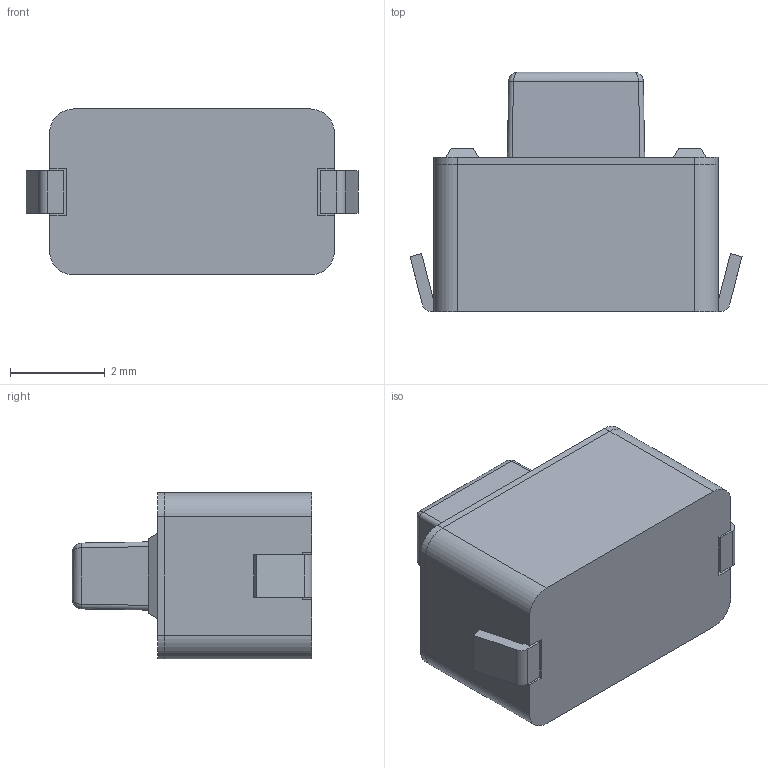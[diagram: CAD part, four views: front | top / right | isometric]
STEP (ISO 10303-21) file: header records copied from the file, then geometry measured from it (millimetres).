
FILE_DESCRIPTION((''),'2;1');
FILE_NAME('JQA3560Z-B0503-G-1-101_ASM','2026-05-22T10:42:59',('Admin'),(''),'CREO PARAMETRIC BY PTC INC, 2019224','CREO PARAMETRIC BY PTC INC, 2019224','');
FILE_SCHEMA(('AUTOMOTIVE_DESIGN { 1 0 10303 214 1 1 1 1 }'));
Length unit declared in the file: millimetre
Products named in the file (3): JQA3560Z-B0503-G-1-101_02; JQA3560Z-B0503-G-1-101_06; JQA3560Z-B0503-G-1-101_ASM
Assembly tree (2 placements, depth 2):
  JQA3560Z-B0503-G-1-101_ASM
    JQA3560Z-B0503-G-1-101_02
    JQA3560Z-B0503-G-1-101_06
Bounding box: 7 x 5.05 x 3.5 mm (x, y, z)
Volume: 75.5 mm3; surface area: 159.5 mm2
Topology: 2 solids, 2 shells, 95 faces, 246 edges, 160 vertices
Faces by surface type: plane 73, cylinder 18, bspline 4
Entity records: 4102 total; most frequent: CARTESIAN_POINT 759, ORIENTED_EDGE 492, DIRECTION 454, EDGE_CURVE 246, PRESENTATION_STYLE_ASSIGNMENT 221, VECTOR 210, LINE 210, STYLED_ITEM 207
